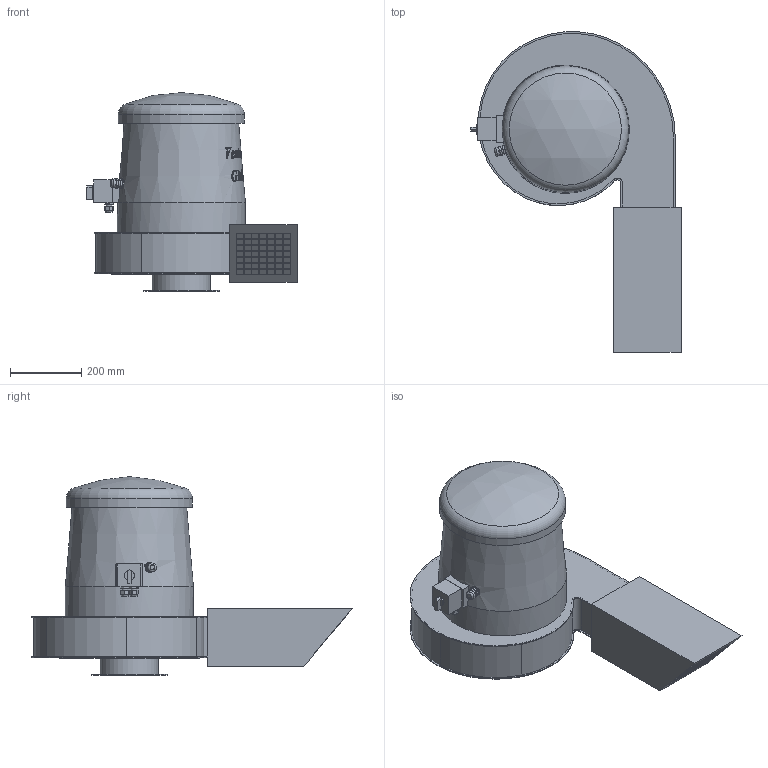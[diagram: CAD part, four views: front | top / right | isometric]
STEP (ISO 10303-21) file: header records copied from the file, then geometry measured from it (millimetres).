
FILE_DESCRIPTION(/* description */ (''),/* implementation_level */ '2;1');
FILE_NAME(/* name */ 'E:\Mariusz\Modele uproszczone\GMT-R\GMT-R_200 42552270\GMT-R_200 42552270\GMT-R_200 42552270.stp',/* time_stamp */ '2018-06-20T15:23:08+02:00',/* author */ ('M.Janczarek'),/* organization */ (''),/* preprocessor_version */ 'ST-DEVELOPER v16.5',/* originating_system */ 'Autodesk Inventor 2017',/* authorisation */ '');
FILE_SCHEMA (('AUTOMOTIVE_DESIGN { 1 0 10303 214 3 1 1 }'));
Length unit declared in the file: millimetre
Products named in the file (1): GMT-R_200 42552270
Bounding box: 591 x 900.74 x 558.5 mm (x, y, z)
Volume: 71104321.7 mm3; surface area: 1465595.3 mm2
Topology: 1 solids, 1 shells, 1018 faces, 2720 edges, 1804 vertices
Faces by surface type: plane 460, bspline 455, cylinder 58, cone 36, sphere 7, torus 2
Full cylindrical faces by diameter (mm): 7.1 x6, 11.5 x2, 12 x1, 18 x2, 20 x1, 22 x1, 24.5 x1, 27 x1, 28 x1, 160 x1, 164 x1, 215 x1, 355 x1, 360 x1, 393 x1
Entity records: 39395 total; most frequent: CARTESIAN_POINT 16113, ORIENTED_EDGE 5348, DIRECTION 3333, EDGE_CURVE 2674, VERTEX_POINT 1790, LINE 1559, VECTOR 1559, EDGE_LOOP 1160
